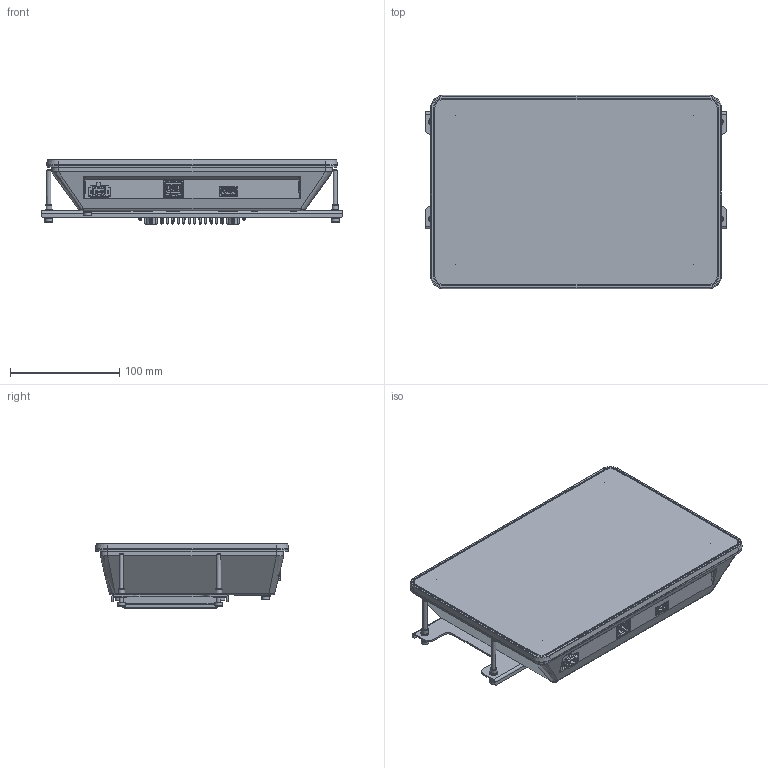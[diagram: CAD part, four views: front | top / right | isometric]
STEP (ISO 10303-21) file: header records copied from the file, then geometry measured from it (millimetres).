
FILE_DESCRIPTION(/* description */ (''),/* implementation_level */ '2;1');
FILE_NAME(/* name */ 'D:\Modelle vereinfacht\notion.F\778-23987-01\778-23987-01_EXTERN.stp',/* time_stamp */ '2023-09-29T11:34:17+02:00',/* author */ ('Blessing'),/* organization */ (''),/* preprocessor_version */ 'ST-DEVELOPER v18.1',/* originating_system */ 'Autodesk Inventor 2021',/* authorisation */ '');
FILE_SCHEMA (('AUTOMOTIVE_DESIGN { 1 0 10303 214 3 1 1 }'));
Products named in the file (3): Baugruppe2; 778-23987-01_EXTERN; Einbau Montagekit_EXTERN
Assembly tree (2 placements, depth 2):
  Baugruppe2
    778-23987-01_EXTERN
    Einbau Montagekit_EXTERN
Bounding box: 276 x 176.67 x 59.73 mm (x, y, z)
Volume: 1880982.9 mm3; surface area: 254882.8 mm2
Topology: 3 solids, 16 shells, 8412 faces, 22052 edges, 13979 vertices
Faces by surface type: plane 4208, bspline 1993, cylinder 1980, cone 179, torus 44, sphere 8
Full cylindrical faces by diameter (mm): 0.4 x2, 0.434 x1, 0.8 x2, 1.4 x2, 2.8 x1, 3.242 x9, 3.8 x6, 4 x13, 4.3 x5, 4.4 x4, 5 x4, 5.54 x6, 5.9 x8, 6 x5, 6.5 x1, 7 x10, 9 x4, 16.312 x1
Entity records: 295247 total; most frequent: CARTESIAN_POINT 93742, ORIENTED_EDGE 43938, DIRECTION 35560, EDGE_CURVE 21969, VERTEX_POINT 13979, LINE 13660, VECTOR 13660, AXIS2_PLACEMENT_3D 10950
